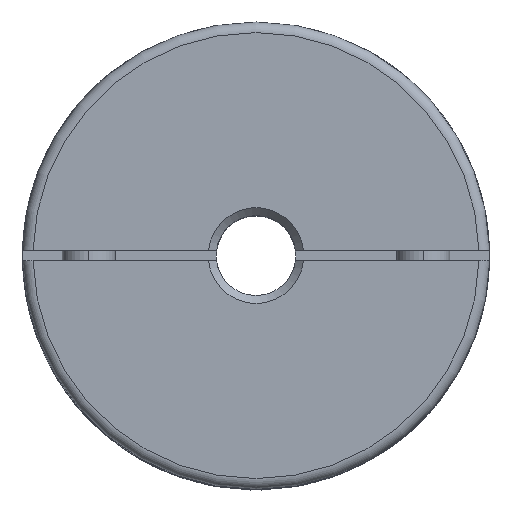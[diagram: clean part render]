
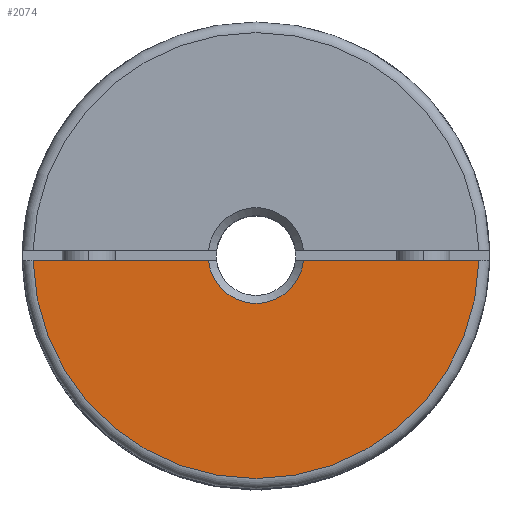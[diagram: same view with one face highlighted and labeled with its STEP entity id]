
A CAD part, top view. The second image highlights one B-rep face of the part: STEP entity #2074.
In plain terms, the highlighted planar face has unit normal (0, 0, 1).
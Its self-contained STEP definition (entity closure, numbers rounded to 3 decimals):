
#574 = LINE ( 'NONE', #5117, #576 ) ;
#576 = VECTOR ( 'NONE', #5116, 1000. ) ;
#594 = LINE ( 'NONE', #5201, #595 ) ;
#595 = VECTOR ( 'NONE', #5202, 1000. ) ;
#779 = FACE_OUTER_BOUND ( 'NONE', #10735, .T. ) ;
#2074 = ADVANCED_FACE ( 'NONE', ( #779 ), #9987, .F. ) ;
#2204 = ORIENTED_EDGE ( 'NONE', *, *, #7896, .T. ) ;
#2225 = ORIENTED_EDGE ( 'NONE', *, *, #7880, .T. ) ;
#2228 = ORIENTED_EDGE ( 'NONE', *, *, #7902, .T. ) ;
#2240 = ORIENTED_EDGE ( 'NONE', *, *, #7903, .T. ) ;
#2994 = CIRCLE ( 'NONE', #3770, 9. ) ;
#2996 = CIRCLE ( 'NONE', #3771, 42. ) ;
#3770 = AXIS2_PLACEMENT_3D ( 'NONE', #5226, #5227, #5228 ) ;
#3771 = AXIS2_PLACEMENT_3D ( 'NONE', #5229, #5230, #5231 ) ;
#4395 = CARTESIAN_POINT ( 'NONE',  ( -8.944, -1., 48.5 ) ) ;
#4401 = CARTESIAN_POINT ( 'NONE',  ( 8.944, -1., 48.5 ) ) ;
#4410 = CARTESIAN_POINT ( 'NONE',  ( 41.988, -1., 48.5 ) ) ;
#4442 = CARTESIAN_POINT ( 'NONE',  ( -41.988, -1., 48.5 ) ) ;
#5116 = DIRECTION ( 'NONE',  ( -1., 0., 0. ) ) ;
#5117 = CARTESIAN_POINT ( 'NONE',  ( 44., -1., 48.5 ) ) ;
#5201 = CARTESIAN_POINT ( 'NONE',  ( 44., -1., 48.5 ) ) ;
#5202 = DIRECTION ( 'NONE',  ( -1., 0., 0. ) ) ;
#5226 = CARTESIAN_POINT ( 'NONE',  ( 0., 0., 48.5 ) ) ;
#5227 = DIRECTION ( 'NONE',  ( 0., 0., -1. ) ) ;
#5228 = DIRECTION ( 'NONE',  ( 0., 1., 0. ) ) ;
#5229 = CARTESIAN_POINT ( 'NONE',  ( 0., 0., 48.5 ) ) ;
#5230 = DIRECTION ( 'NONE',  ( 0., 0., 1. ) ) ;
#5231 = DIRECTION ( 'NONE',  ( 1., 0., 0. ) ) ;
#6748 = AXIS2_PLACEMENT_3D ( 'NONE', #9991, #9985, #9984 ) ;
#6856 = VERTEX_POINT ( 'NONE', #4395 ) ;
#6862 = VERTEX_POINT ( 'NONE', #4401 ) ;
#6871 = VERTEX_POINT ( 'NONE', #4410 ) ;
#6896 = VERTEX_POINT ( 'NONE', #4442 ) ;
#7880 = EDGE_CURVE ( 'NONE', #6856, #6896, #574, .T. ) ;
#7896 = EDGE_CURVE ( 'NONE', #6871, #6862, #594, .T. ) ;
#7902 = EDGE_CURVE ( 'NONE', #6862, #6856, #2994, .T. ) ;
#7903 = EDGE_CURVE ( 'NONE', #6896, #6871, #2996, .T. ) ;
#9984 = DIRECTION ( 'NONE',  ( 1., 0., 0. ) ) ;
#9985 = DIRECTION ( 'NONE',  ( 0., 0., -1. ) ) ;
#9987 = PLANE ( 'NONE',  #6748 ) ;
#9991 = CARTESIAN_POINT ( 'NONE',  ( 0., 0., 48.5 ) ) ;
#10735 = EDGE_LOOP ( 'NONE', ( #2204, #2228, #2225, #2240 ) ) ;
